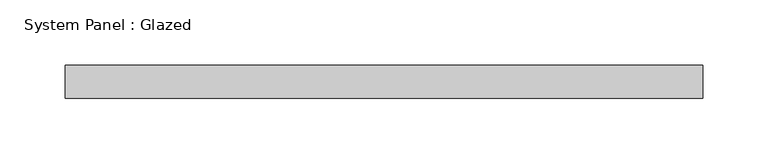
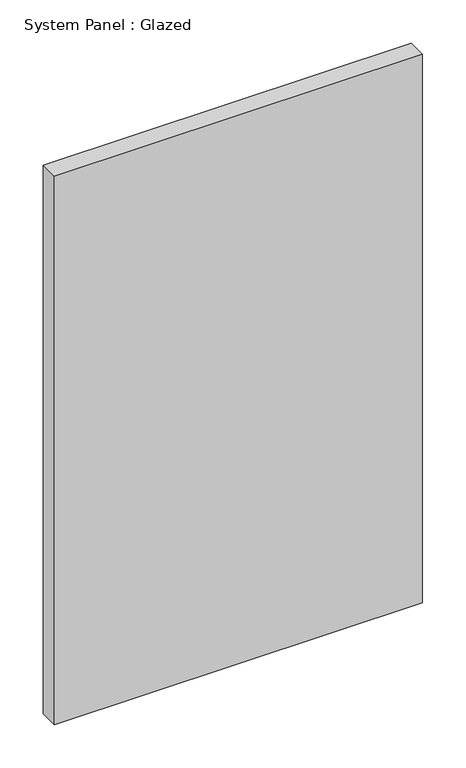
"""IFC4 building model written with IfcOpenShell, lengths in millimetres: plate geometry, System Panel : Glazed."""

from ifc_helpers import new_model, si_unit, origin, origin_with_axes, place, context, project, spatial, polyline, outline, extrude, source, transform, mapped, element, save


def system_panel_glazed_3f6c4fe7(model_context):
    return source(origin(), model_context, "Body", "SweptSolid", [
        extrude(outline(polyline([(244.475, 19.05), (-244.475, 19.05), (-244.475, 44.45), (244.475, 44.45), (244.475, 19.05)])), origin_with_axes(), (0.0, 0.0, 1.0), 770.6690025),
    ])


if __name__ == "__main__":
    model = new_model("IFC4")
    model_context = context("Model", 3, world=origin())
    ifc_project = project(units=[si_unit("LENGTHUNIT", "METRE", prefix="MILLI")], contexts=[model_context])
    site = spatial("IfcSite", under=ifc_project)
    building = spatial("IfcBuilding", under=site)
    placement = place(None, origin())
    system_panel_glazed_shape = system_panel_glazed_3f6c4fe7(model_context)
    element("IfcPlate", 1, ObjectType="System Panel : Glazed", at=placement, inside=building, context=model_context, shape_type="MappedRepresentation", body=[
        mapped(system_panel_glazed_shape, transform((0.0, 0.0, 0.0), x_axis=(1.0, 0.0, 0.0), y_axis=(0.0, 1.0, 0.0), z_axis=(0.0, 0.0, 1.0))),
    ])
    save(model, "model.ifc")
